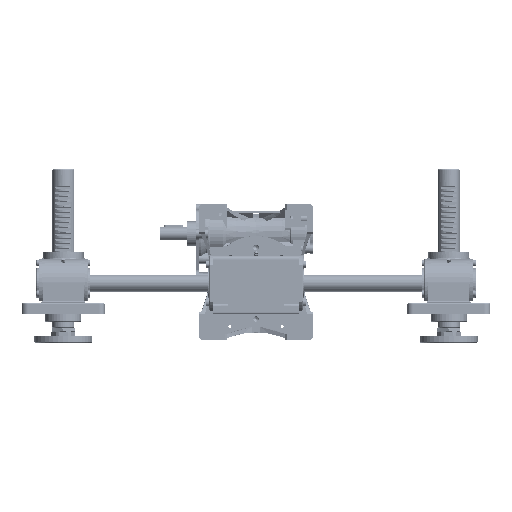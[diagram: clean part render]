
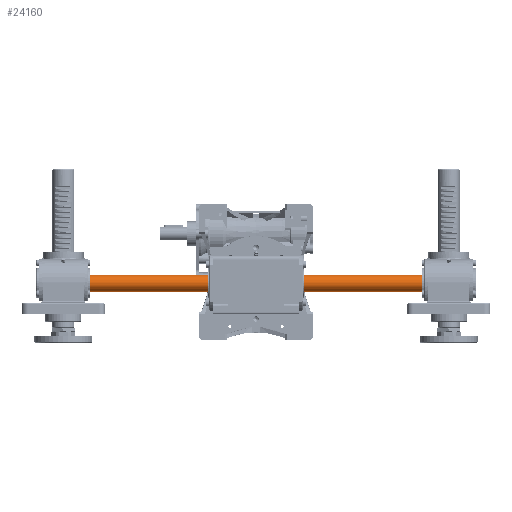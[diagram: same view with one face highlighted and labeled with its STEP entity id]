
A CAD part, left-side view. The second image highlights one B-rep face of the part: STEP entity #24160.
In plain terms, the highlighted cylindrical face has radius 15 mm (diameter 30 mm), a full revolution.
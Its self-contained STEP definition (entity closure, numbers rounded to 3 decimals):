
#24160=ADVANCED_FACE('',(#56921,#56922),#56923,.T.);
#56921=FACE_OUTER_BOUND('',#103377,.T.);
#56922=FACE_OUTER_BOUND('',#103378,.T.);
#56923=CYLINDRICAL_SURFACE('',#103379,15.0);
#103377=EDGE_LOOP('',(#232374));
#103378=EDGE_LOOP('',(#232375));
#103379=AXIS2_PLACEMENT_3D('',#232376,#232377,#232378);
#232374=ORIENTED_EDGE('',*,*,#283203,.F.);
#232375=ORIENTED_EDGE('',*,*,#283204,.F.);
#232376=CARTESIAN_POINT('',(0.0,0.0,0.0));
#232377=DIRECTION('',(0.0,0.0,-1.0));
#232378=DIRECTION('',(1.0,0.0,0.0));
#283203=EDGE_CURVE('',#354281,#354281,#354282,.T.);
#283204=EDGE_CURVE('',#354283,#354283,#354284,.T.);
#354281=VERTEX_POINT('',#474236);
#354282=CIRCLE('',#474237,15.0);
#354283=VERTEX_POINT('',#474238);
#354284=CIRCLE('',#474239,15.0);
#474236=CARTESIAN_POINT('',(15.0,0.,779.0));
#474237=AXIS2_PLACEMENT_3D('',#531318,#531319,#531320);
#474238=CARTESIAN_POINT('',(15.0,0.,1.0));
#474239=AXIS2_PLACEMENT_3D('',#531321,#531322,#531323);
#531318=CARTESIAN_POINT('',(0.0,0.0,779.0));
#531319=DIRECTION('',(0.0,0.0,1.0));
#531320=DIRECTION('',(-1.0,0.0,0.0));
#531321=CARTESIAN_POINT('',(0.0,0.0,1.0));
#531322=DIRECTION('',(0.0,0.0,-1.0));
#531323=DIRECTION('',(-1.0,0.0,0.0));
